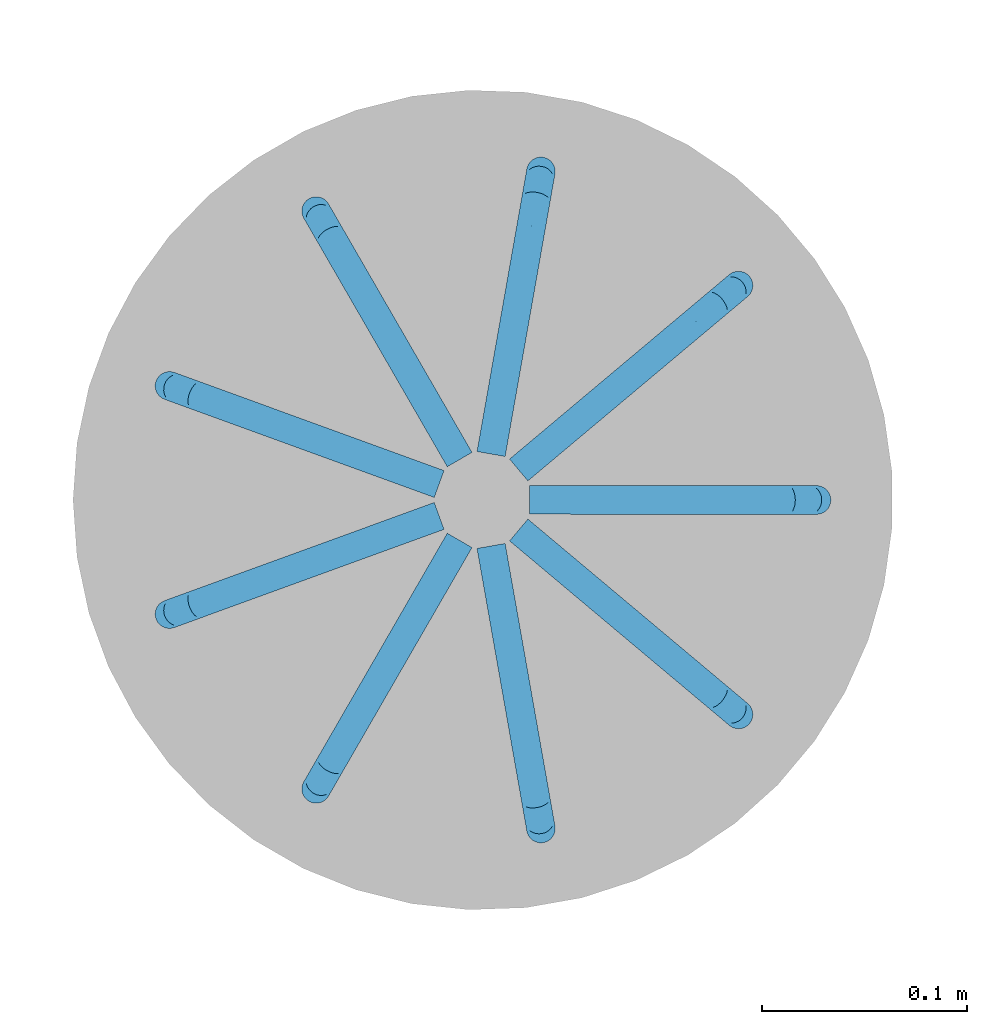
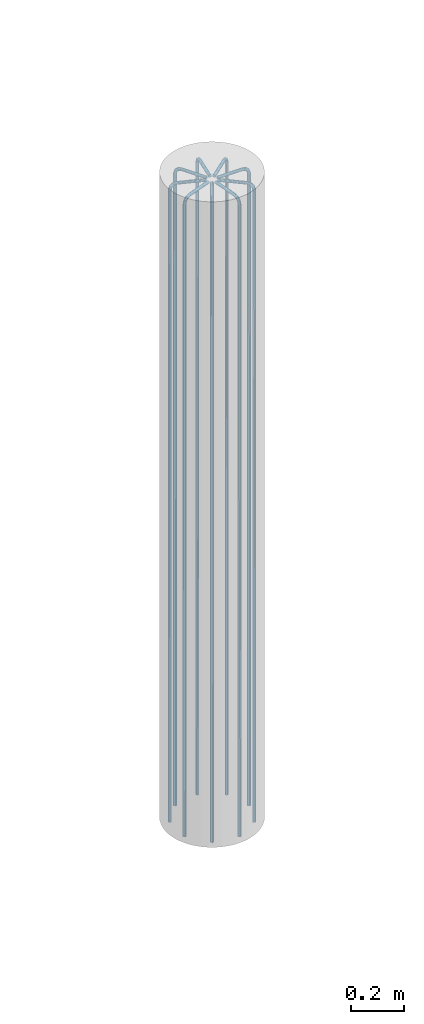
# One storey, part 4 of 11: 1 reinforcing bar.
"""IFC2X3 building model written with IfcOpenShell, lengths in metres."""

from ifc_helpers import new_model, entity, si_unit, direction, frame, origin, place, context, subcontext, project, spatial, shape, source, transform, mapped, element, save


model = new_model("IFC2X3")

# Units and contexts
model_context = context("Model", 3, precision=0.0, world=origin(), true_north=direction((0.0, 1.0)))
plan_context = context("Plan", 3, precision=0.0, world=origin(), true_north=direction((0.0, 1.0)))
body_context = subcontext(model_context, "Body", "Model", "MODEL_VIEW", scale=1.0)
ifc_project = project(units=[si_unit("LENGTHUNIT", "METRE"), si_unit("AREAUNIT", "SQUARE_METRE"), si_unit("VOLUMEUNIT", "CUBIC_METRE"), si_unit("PLANEANGLEUNIT", "RADIAN"), si_unit("THERMODYNAMICTEMPERATUREUNIT", "DEGREE_CELSIUS"), si_unit("FORCEUNIT", "NEWTON"), si_unit("MASSUNIT", "GRAM", prefix="KILO")], contexts=[model_context, plan_context])

# Site, building, storey
placement = place(None, origin())
site = spatial("IfcSite", under=ifc_project, at=placement, Name="Default Site", CompositionType="ELEMENT")
building = spatial("IfcBuilding", under=site, at=placement, Name="Default Building", CompositionType="ELEMENT")
storey_placement = place(placement, frame((0.0, 0.0, 3.0), z_axis=(1.0, 0.0, 0.0), x_axis=(0.0, 0.0, 1.0)))
storey = spatial("IfcBuildingStorey", under=building, at=storey_placement, Name="Piano 1", CompositionType="ELEMENT", Elevation=3.0)

# Reinforcing bar
shared_shape_1 = source(origin(), body_context, None, "AdvancedSweptSolid", [
    entity("IfcSweptDiskSolid", entity("IfcCompositeCurve", [entity("IfcCompositeCurveSegment", "CONTINUOUS", True, entity("IfcPolyline", [entity("IfcCartesianPoint", [0.0, 0.0, 0.0]), entity("IfcCartesianPoint", [0.0, 0.0, 2.937]), entity("IfcCartesianPoint", [-0.003751, 0.0, 2.951]), entity("IfcCartesianPoint", [-0.014, 0.0, 2.961249]), entity("IfcCartesianPoint", [-0.028, 0.0, 2.965]), entity("IfcCartesianPoint", [-0.14, 0.0, 2.965])]))], False), 0.007, 0.0, 0.0),
])
shared_shape_2 = source(origin(), body_context, None, "MappedRepresentation", [mapped(shared_shape_1, transform((8.162754, 0.0, 0.0)))])
shared_shape_3 = source(origin(), body_context, None, "AdvancedSweptSolid", [
    entity("IfcSweptDiskSolid", entity("IfcCompositeCurve", [entity("IfcCompositeCurveSegment", "CONTINUOUS", True, entity("IfcPolyline", [entity("IfcCartesianPoint", [0.0, 0.0, 0.0]), entity("IfcCartesianPoint", [0.0, 0.0, 2.937]), entity("IfcCartesianPoint", [-0.002874, -0.002411, 2.951]), entity("IfcCartesianPoint", [-0.010725, -0.008999, 2.961249]), entity("IfcCartesianPoint", [-0.021449, -0.017998, 2.965]), entity("IfcCartesianPoint", [-0.107246, -0.08999, 2.965])]))], False), 0.007, 0.0, 0.0),
])
shared_shape_4 = source(origin(), body_context, None, "MappedRepresentation", [mapped(shared_shape_3, transform((8.124677, 0.104616, 0.0)))])
shared_shape_5 = source(origin(), body_context, None, "AdvancedSweptSolid", [
    entity("IfcSweptDiskSolid", entity("IfcCompositeCurve", [entity("IfcCompositeCurveSegment", "CONTINUOUS", True, entity("IfcPolyline", [entity("IfcCartesianPoint", [0.0, 0.0, 0.0]), entity("IfcCartesianPoint", [0.0, 0.0, 2.937]), entity("IfcCartesianPoint", [-0.000651, -0.003694, 2.951]), entity("IfcCartesianPoint", [-0.002431, -0.013787, 2.961249]), entity("IfcCartesianPoint", [-0.004862, -0.027575, 2.965]), entity("IfcCartesianPoint", [-0.024311, -0.137873, 2.965])]))], False), 0.007, 0.0, 0.0),
])
shared_shape_6 = source(origin(), body_context, None, "MappedRepresentation", [mapped(shared_shape_5, transform((8.028262, 0.160281, 0.0)))])
shared_shape_7 = source(origin(), body_context, None, "AdvancedSweptSolid", [
    entity("IfcSweptDiskSolid", entity("IfcCompositeCurve", [entity("IfcCompositeCurveSegment", "CONTINUOUS", True, entity("IfcPolyline", [entity("IfcCartesianPoint", [0.0, 0.0, 0.0]), entity("IfcCartesianPoint", [0.0, 0.0, 2.937]), entity("IfcCartesianPoint", [0.001876, -0.003249, 2.951]), entity("IfcCartesianPoint", [0.007, -0.012124, 2.961249]), entity("IfcCartesianPoint", [0.014, -0.024249, 2.965]), entity("IfcCartesianPoint", [0.07, -0.121244, 2.965])]))], False), 0.007, 0.0, 0.0),
])
shared_shape_8 = source(origin(), body_context, None, "MappedRepresentation", [mapped(shared_shape_7, transform((7.918623, 0.140949, 0.0)))])
shared_shape_9 = source(origin(), body_context, None, "AdvancedSweptSolid", [
    entity("IfcSweptDiskSolid", entity("IfcCompositeCurve", [entity("IfcCompositeCurveSegment", "CONTINUOUS", True, entity("IfcPolyline", [entity("IfcCartesianPoint", [0.0, 0.0, 0.0]), entity("IfcCartesianPoint", [0.0, 0.0, 2.937]), entity("IfcCartesianPoint", [0.003525, -0.001283, 2.951]), entity("IfcCartesianPoint", [0.013156, -0.004788, 2.961249]), entity("IfcCartesianPoint", [0.026311, -0.009577, 2.965]), entity("IfcCartesianPoint", [0.131557, -0.047883, 2.965])]))], False), 0.007, 0.0, 0.0),
])
shared_shape_10 = source(origin(), body_context, None, "MappedRepresentation", [mapped(shared_shape_9, transform((7.847061, 0.055665, 0.0)))])
shared_shape_11 = source(origin(), body_context, None, "AdvancedSweptSolid", [
    entity("IfcSweptDiskSolid", entity("IfcCompositeCurve", [entity("IfcCompositeCurveSegment", "CONTINUOUS", True, entity("IfcPolyline", [entity("IfcCartesianPoint", [0.0, 0.0, 0.0]), entity("IfcCartesianPoint", [0.0, 0.0, 2.937]), entity("IfcCartesianPoint", [0.003525, 0.001283, 2.951]), entity("IfcCartesianPoint", [0.013156, 0.004788, 2.961249]), entity("IfcCartesianPoint", [0.026311, 0.009577, 2.965]), entity("IfcCartesianPoint", [0.131557, 0.047883, 2.965])]))], False), 0.007, 0.0, 0.0),
])
shared_shape_12 = source(origin(), body_context, None, "MappedRepresentation", [mapped(shared_shape_11, transform((7.847061, -0.055665, 0.0)))])
shared_shape_13 = source(origin(), body_context, None, "AdvancedSweptSolid", [
    entity("IfcSweptDiskSolid", entity("IfcCompositeCurve", [entity("IfcCompositeCurveSegment", "CONTINUOUS", True, entity("IfcPolyline", [entity("IfcCartesianPoint", [0.0, 0.0, 0.0]), entity("IfcCartesianPoint", [0.0, 0.0, 2.937]), entity("IfcCartesianPoint", [0.001876, 0.003249, 2.951]), entity("IfcCartesianPoint", [0.007, 0.012124, 2.961249]), entity("IfcCartesianPoint", [0.014, 0.024249, 2.965]), entity("IfcCartesianPoint", [0.07, 0.121244, 2.965])]))], False), 0.007, 0.0, 0.0),
])
shared_shape_14 = source(origin(), body_context, None, "MappedRepresentation", [mapped(shared_shape_13, transform((7.918623, -0.140949, 0.0)))])
shared_shape_15 = source(origin(), body_context, None, "AdvancedSweptSolid", [
    entity("IfcSweptDiskSolid", entity("IfcCompositeCurve", [entity("IfcCompositeCurveSegment", "CONTINUOUS", True, entity("IfcPolyline", [entity("IfcCartesianPoint", [0.0, 0.0, 0.0]), entity("IfcCartesianPoint", [0.0, 0.0, 2.937]), entity("IfcCartesianPoint", [-0.000651, 0.003694, 2.951]), entity("IfcCartesianPoint", [-0.002431, 0.013787, 2.961249]), entity("IfcCartesianPoint", [-0.004862, 0.027575, 2.965]), entity("IfcCartesianPoint", [-0.024311, 0.137873, 2.965])]))], False), 0.007, 0.0, 0.0),
])
shared_shape_16 = source(origin(), body_context, None, "MappedRepresentation", [mapped(shared_shape_15, transform((8.028262, -0.160281, 0.0)))])
shared_shape_17 = source(origin(), body_context, None, "AdvancedSweptSolid", [
    entity("IfcSweptDiskSolid", entity("IfcCompositeCurve", [entity("IfcCompositeCurveSegment", "CONTINUOUS", True, entity("IfcPolyline", [entity("IfcCartesianPoint", [0.0, 0.0, 0.0]), entity("IfcCartesianPoint", [0.0, 0.0, 2.937]), entity("IfcCartesianPoint", [-0.002874, 0.002411, 2.951]), entity("IfcCartesianPoint", [-0.010725, 0.008999, 2.961249]), entity("IfcCartesianPoint", [-0.021449, 0.017998, 2.965]), entity("IfcCartesianPoint", [-0.107246, 0.08999, 2.965])]))], False), 0.007, 0.0, 0.0),
])
shared_shape_18 = source(origin(), body_context, None, "MappedRepresentation", [mapped(shared_shape_17, transform((8.124677, -0.104616, 0.0)))])
element("IfcReinforcingBar", 1, at=placement, inside=storey, Name="Arm Principale; Pilastro:3 [Piano:1]", BarLength=27.857371, BarRole="MAIN", BarSurface="TEXTURED", NominalDiameter=0.014, shapes=[
    shape(body_context, None, "MappedRepresentation", [mapped(shared_shape_2, transform((0.0, 0.0, 0.0))), mapped(shared_shape_4, transform((0.0, 0.0, 0.0))), mapped(shared_shape_6, transform((0.0, 0.0, 0.0))), mapped(shared_shape_8, transform((0.0, 0.0, 0.0))), mapped(shared_shape_10, transform((0.0, 0.0, 0.0))), mapped(shared_shape_12, transform((0.0, 0.0, 0.0))), mapped(shared_shape_14, transform((0.0, 0.0, 0.0))), mapped(shared_shape_16, transform((0.0, 0.0, 0.0))), mapped(shared_shape_18, transform((0.0, 0.0, 0.0)))]),
])

save(model, "model.ifc")
